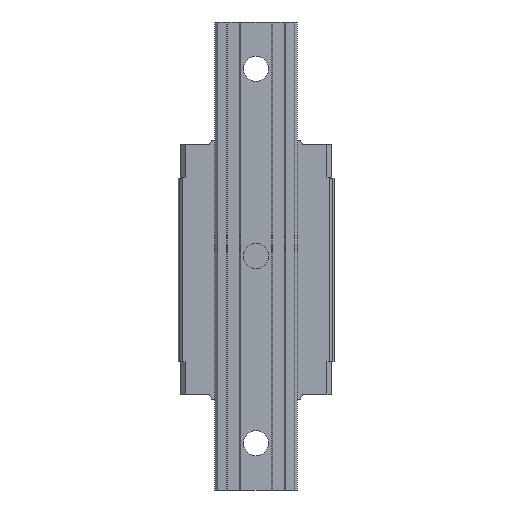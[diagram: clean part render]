
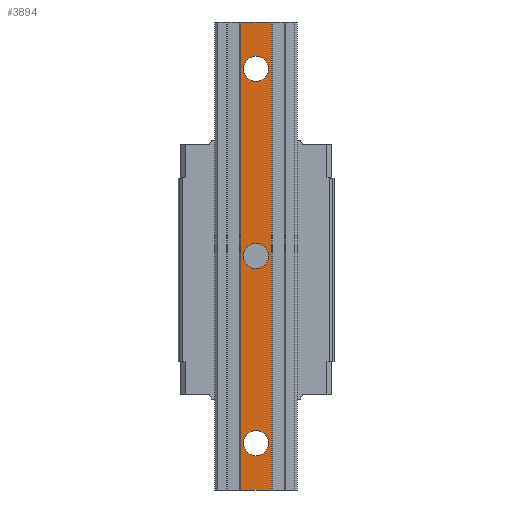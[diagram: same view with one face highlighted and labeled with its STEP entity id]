
A CAD part, front view. The second image highlights one B-rep face of the part: STEP entity #3894.
In plain terms, the highlighted planar face has unit normal (0, -1, 0).
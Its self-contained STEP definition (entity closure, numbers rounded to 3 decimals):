
#106 = DIRECTION ( 'NONE',  ( 0., 0., 1. ) ) ;
#220 = DIRECTION ( 'NONE',  ( 1., 0., 0. ) ) ;
#268 = CARTESIAN_POINT ( 'NONE',  ( 0., -44., -50. ) ) ;
#389 = CIRCLE ( 'NONE', #5626, 8. ) ;
#600 = CARTESIAN_POINT ( 'NONE',  ( 0., -44., 70. ) ) ;
#638 = EDGE_LOOP ( 'NONE', ( #4469, #6145 ) ) ;
#644 = DIRECTION ( 'NONE',  ( 0., 0., 1. ) ) ;
#660 = CIRCLE ( 'NONE', #6030, 8. ) ;
#844 = ORIENTED_EDGE ( 'NONE', *, *, #2372, .T. ) ;
#1097 = EDGE_LOOP ( 'NONE', ( #2530, #7681 ) ) ;
#1146 = VERTEX_POINT ( 'NONE', #7871 ) ;
#1301 = EDGE_CURVE ( 'NONE', #2475, #3501, #4413, .T. ) ;
#1326 = DIRECTION ( 'NONE',  ( 0., 1., 0. ) ) ;
#1490 = DIRECTION ( 'NONE',  ( 0., 0., 1. ) ) ;
#1570 = EDGE_CURVE ( 'NONE', #3579, #7031, #4688, .T. ) ;
#1682 = ORIENTED_EDGE ( 'NONE', *, *, #7840, .T. ) ;
#1827 = VERTEX_POINT ( 'NONE', #1939 ) ;
#1939 = CARTESIAN_POINT ( 'NONE',  ( 9.8, -44., 100. ) ) ;
#2057 = LINE ( 'NONE', #3911, #2133 ) ;
#2103 = DIRECTION ( 'NONE',  ( 0., 0., 1. ) ) ;
#2119 = DIRECTION ( 'NONE',  ( 0., 0., 1. ) ) ;
#2133 = VECTOR ( 'NONE', #4763, 1000. ) ;
#2168 = ORIENTED_EDGE ( 'NONE', *, *, #8031, .F. ) ;
#2178 = LINE ( 'NONE', #4891, #4630 ) ;
#2194 = DIRECTION ( 'NONE',  ( 0., 1., 0. ) ) ;
#2372 = EDGE_CURVE ( 'NONE', #1146, #7971, #3847, .T. ) ;
#2475 = VERTEX_POINT ( 'NONE', #8315 ) ;
#2530 = ORIENTED_EDGE ( 'NONE', *, *, #1301, .T. ) ;
#2532 = EDGE_CURVE ( 'NONE', #7971, #7680, #6182, .T. ) ;
#2604 = DIRECTION ( 'NONE',  ( 0., 0., -1. ) ) ;
#2658 = FACE_OUTER_BOUND ( 'NONE', #6753, .T. ) ;
#2691 = DIRECTION ( 'NONE',  ( 0., 1., 0. ) ) ;
#2696 = EDGE_CURVE ( 'NONE', #5006, #4819, #660, .T. ) ;
#2746 = FACE_BOUND ( 'NONE', #5909, .T. ) ;
#2835 = CARTESIAN_POINT ( 'NONE',  ( 0., -44., -170. ) ) ;
#2971 = EDGE_CURVE ( 'NONE', #7680, #1827, #2057, .T. ) ;
#3501 = VERTEX_POINT ( 'NONE', #6147 ) ;
#3579 = VERTEX_POINT ( 'NONE', #8022 ) ;
#3678 = CARTESIAN_POINT ( 'NONE',  ( -9.8, -44., -200. ) ) ;
#3847 = LINE ( 'NONE', #6017, #4766 ) ;
#3894 = ADVANCED_FACE ( 'NONE', ( #2746, #4757, #7422, #2658 ), #4083, .T. ) ;
#3911 = CARTESIAN_POINT ( 'NONE',  ( 9.8, -44., -200. ) ) ;
#3932 = AXIS2_PLACEMENT_3D ( 'NONE', #4625, #8145, #6076 ) ;
#4083 = PLANE ( 'NONE',  #3932 ) ;
#4220 = DIRECTION ( 'NONE',  ( 0., 0., 1. ) ) ;
#4413 = CIRCLE ( 'NONE', #6650, 8. ) ;
#4469 = ORIENTED_EDGE ( 'NONE', *, *, #7378, .T. ) ;
#4494 = AXIS2_PLACEMENT_3D ( 'NONE', #6149, #2691, #106 ) ;
#4625 = CARTESIAN_POINT ( 'NONE',  ( -9.8, -44., -200. ) ) ;
#4630 = VECTOR ( 'NONE', #7557, 1000. ) ;
#4688 = CIRCLE ( 'NONE', #7201, 8. ) ;
#4757 = FACE_BOUND ( 'NONE', #638, .T. ) ;
#4763 = DIRECTION ( 'NONE',  ( 0., 0., 1. ) ) ;
#4766 = VECTOR ( 'NONE', #2604, 1000. ) ;
#4819 = VERTEX_POINT ( 'NONE', #5421 ) ;
#4834 = CARTESIAN_POINT ( 'NONE',  ( 0., -44., 70. ) ) ;
#4891 = CARTESIAN_POINT ( 'NONE',  ( 19.5, -44., 100. ) ) ;
#4906 = CARTESIAN_POINT ( 'NONE',  ( 0., -44., -50. ) ) ;
#5006 = VERTEX_POINT ( 'NONE', #7287 ) ;
#5253 = ORIENTED_EDGE ( 'NONE', *, *, #1570, .T. ) ;
#5421 = CARTESIAN_POINT ( 'NONE',  ( 0., -44., -42. ) ) ;
#5626 = AXIS2_PLACEMENT_3D ( 'NONE', #600, #6691, #644 ) ;
#5896 = CIRCLE ( 'NONE', #4494, 8. ) ;
#5909 = EDGE_LOOP ( 'NONE', ( #5253, #1682 ) ) ;
#6017 = CARTESIAN_POINT ( 'NONE',  ( -9.8, -44., -200. ) ) ;
#6030 = AXIS2_PLACEMENT_3D ( 'NONE', #268, #6959, #1490 ) ;
#6076 = DIRECTION ( 'NONE',  ( 0., 0., -1. ) ) ;
#6145 = ORIENTED_EDGE ( 'NONE', *, *, #2696, .T. ) ;
#6147 = CARTESIAN_POINT ( 'NONE',  ( 0., -44., -178. ) ) ;
#6149 = CARTESIAN_POINT ( 'NONE',  ( 0., -44., -170. ) ) ;
#6182 = LINE ( 'NONE', #7482, #8298 ) ;
#6216 = CARTESIAN_POINT ( 'NONE',  ( 9.8, -44., -200. ) ) ;
#6650 = AXIS2_PLACEMENT_3D ( 'NONE', #2835, #8281, #4220 ) ;
#6691 = DIRECTION ( 'NONE',  ( 0., 1., 0. ) ) ;
#6753 = EDGE_LOOP ( 'NONE', ( #2168, #844, #6817, #7704 ) ) ;
#6817 = ORIENTED_EDGE ( 'NONE', *, *, #2532, .T. ) ;
#6842 = AXIS2_PLACEMENT_3D ( 'NONE', #4906, #2194, #2103 ) ;
#6959 = DIRECTION ( 'NONE',  ( 0., 1., 0. ) ) ;
#7031 = VERTEX_POINT ( 'NONE', #7624 ) ;
#7111 = CIRCLE ( 'NONE', #6842, 8. ) ;
#7201 = AXIS2_PLACEMENT_3D ( 'NONE', #4834, #1326, #2119 ) ;
#7287 = CARTESIAN_POINT ( 'NONE',  ( 0., -44., -58. ) ) ;
#7378 = EDGE_CURVE ( 'NONE', #4819, #5006, #7111, .T. ) ;
#7422 = FACE_BOUND ( 'NONE', #1097, .T. ) ;
#7482 = CARTESIAN_POINT ( 'NONE',  ( 0., -44., -200. ) ) ;
#7557 = DIRECTION ( 'NONE',  ( 1., 0., 0. ) ) ;
#7624 = CARTESIAN_POINT ( 'NONE',  ( 0., -44., 62. ) ) ;
#7680 = VERTEX_POINT ( 'NONE', #6216 ) ;
#7681 = ORIENTED_EDGE ( 'NONE', *, *, #8339, .T. ) ;
#7704 = ORIENTED_EDGE ( 'NONE', *, *, #2971, .T. ) ;
#7840 = EDGE_CURVE ( 'NONE', #7031, #3579, #389, .T. ) ;
#7871 = CARTESIAN_POINT ( 'NONE',  ( -9.8, -44., 100. ) ) ;
#7971 = VERTEX_POINT ( 'NONE', #3678 ) ;
#8022 = CARTESIAN_POINT ( 'NONE',  ( 0., -44., 78. ) ) ;
#8031 = EDGE_CURVE ( 'NONE', #1146, #1827, #2178, .T. ) ;
#8145 = DIRECTION ( 'NONE',  ( 0., -1., 0. ) ) ;
#8281 = DIRECTION ( 'NONE',  ( 0., 1., 0. ) ) ;
#8298 = VECTOR ( 'NONE', #220, 1000. ) ;
#8315 = CARTESIAN_POINT ( 'NONE',  ( 0., -44., -162. ) ) ;
#8339 = EDGE_CURVE ( 'NONE', #3501, #2475, #5896, .T. ) ;
